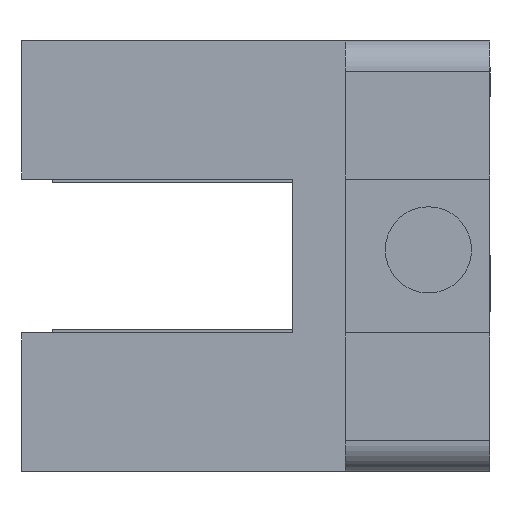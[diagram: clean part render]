
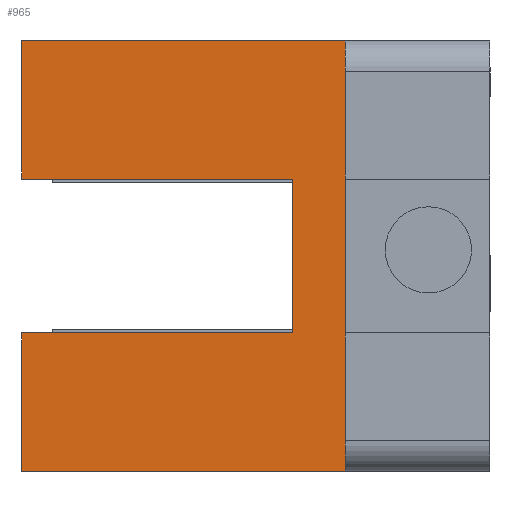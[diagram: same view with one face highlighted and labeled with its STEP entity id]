
A CAD part, left-side view. The second image highlights one B-rep face of the part: STEP entity #965.
In plain terms, the highlighted planar face has unit normal (-1, 0, 0).
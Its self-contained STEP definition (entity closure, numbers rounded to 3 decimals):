
#57=LINE('',#1352,#175);
#58=LINE('',#1355,#176);
#94=LINE('',#1428,#212);
#100=LINE('',#1440,#218);
#107=LINE('',#1452,#225);
#126=LINE('',#1506,#244);
#131=LINE('',#1517,#249);
#142=LINE('',#1541,#260);
#175=VECTOR('',#1095,10.);
#176=VECTOR('',#1098,10.);
#212=VECTOR('',#1156,10.);
#218=VECTOR('',#1164,10.);
#225=VECTOR('',#1173,10.);
#244=VECTOR('',#1218,10.);
#249=VECTOR('',#1229,10.);
#260=VECTOR('',#1254,10.);
#312=FACE_OUTER_BOUND('',#367,.T.);
#367=EDGE_LOOP('',(#824,#825,#826,#827,#828,#829,#830,#831));
#417=VERTEX_POINT('',#1344);
#420=VERTEX_POINT('',#1350);
#421=VERTEX_POINT('',#1354);
#447=VERTEX_POINT('',#1427);
#451=VERTEX_POINT('',#1438);
#452=VERTEX_POINT('',#1439);
#478=VERTEX_POINT('',#1505);
#481=VERTEX_POINT('',#1515);
#517=EDGE_CURVE('',#417,#420,#57,.T.);
#518=EDGE_CURVE('',#417,#421,#58,.T.);
#554=EDGE_CURVE('',#447,#420,#94,.T.);
#560=EDGE_CURVE('',#451,#452,#100,.T.);
#567=EDGE_CURVE('',#421,#451,#107,.T.);
#594=EDGE_CURVE('',#478,#452,#126,.T.);
#600=EDGE_CURVE('',#481,#447,#131,.T.);
#613=EDGE_CURVE('',#481,#478,#142,.T.);
#824=ORIENTED_EDGE('',*,*,#613,.T.);
#825=ORIENTED_EDGE('',*,*,#594,.T.);
#826=ORIENTED_EDGE('',*,*,#560,.F.);
#827=ORIENTED_EDGE('',*,*,#567,.F.);
#828=ORIENTED_EDGE('',*,*,#518,.F.);
#829=ORIENTED_EDGE('',*,*,#517,.T.);
#830=ORIENTED_EDGE('',*,*,#554,.F.);
#831=ORIENTED_EDGE('',*,*,#600,.F.);
#918=PLANE('',#1029);
#965=ADVANCED_FACE('',(#312),#918,.T.);
#1029=AXIS2_PLACEMENT_3D('',#1542,#1255,#1256);
#1095=DIRECTION('',(0.,1.,0.));
#1098=DIRECTION('',(0.,0.,1.));
#1156=DIRECTION('',(0.,0.,1.));
#1164=DIRECTION('',(0.,0.,1.));
#1173=DIRECTION('',(0.,1.,0.));
#1218=DIRECTION('',(0.,1.,0.));
#1229=DIRECTION('',(0.,1.,0.));
#1254=DIRECTION('',(0.,0.,1.));
#1255=DIRECTION('center_axis',(-1.,0.,0.));
#1256=DIRECTION('ref_axis',(0.,0.,1.));
#1344=CARTESIAN_POINT('',(14.492,1.414,-2.5));
#1350=CARTESIAN_POINT('',(14.492,10.214,-2.5));
#1352=CARTESIAN_POINT('',(14.492,9.614,-2.5));
#1354=CARTESIAN_POINT('',(14.492,1.414,2.5));
#1355=CARTESIAN_POINT('',(14.492,1.414,-2.5));
#1427=CARTESIAN_POINT('',(14.492,10.214,-7.));
#1428=CARTESIAN_POINT('',(14.492,10.214,-7.));
#1438=CARTESIAN_POINT('',(14.492,10.214,2.5));
#1439=CARTESIAN_POINT('',(14.492,10.214,7.));
#1440=CARTESIAN_POINT('',(14.492,10.214,2.5));
#1452=CARTESIAN_POINT('',(14.492,9.614,2.5));
#1505=CARTESIAN_POINT('',(14.492,-0.286,7.));
#1506=CARTESIAN_POINT('',(14.492,9.614,7.));
#1515=CARTESIAN_POINT('',(14.492,-0.286,-7.));
#1517=CARTESIAN_POINT('',(14.492,-0.286,-7.));
#1541=CARTESIAN_POINT('',(14.492,-0.286,-3.35));
#1542=CARTESIAN_POINT('Origin',(14.492,9.614,-6.7));
